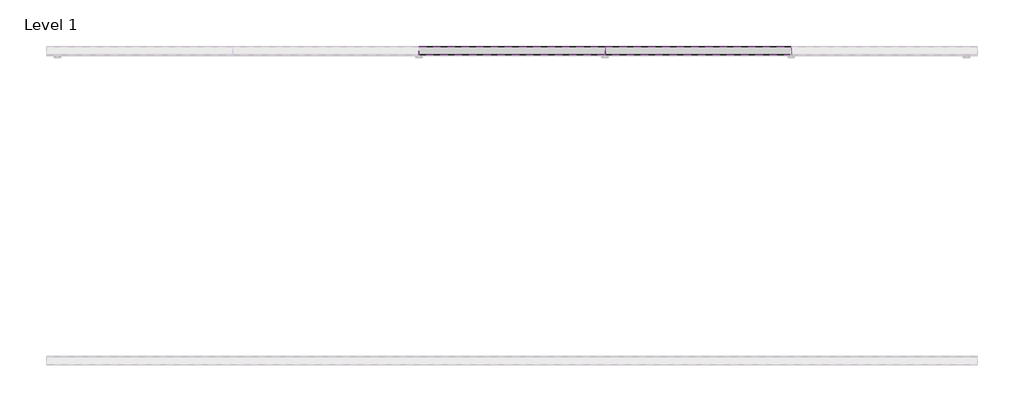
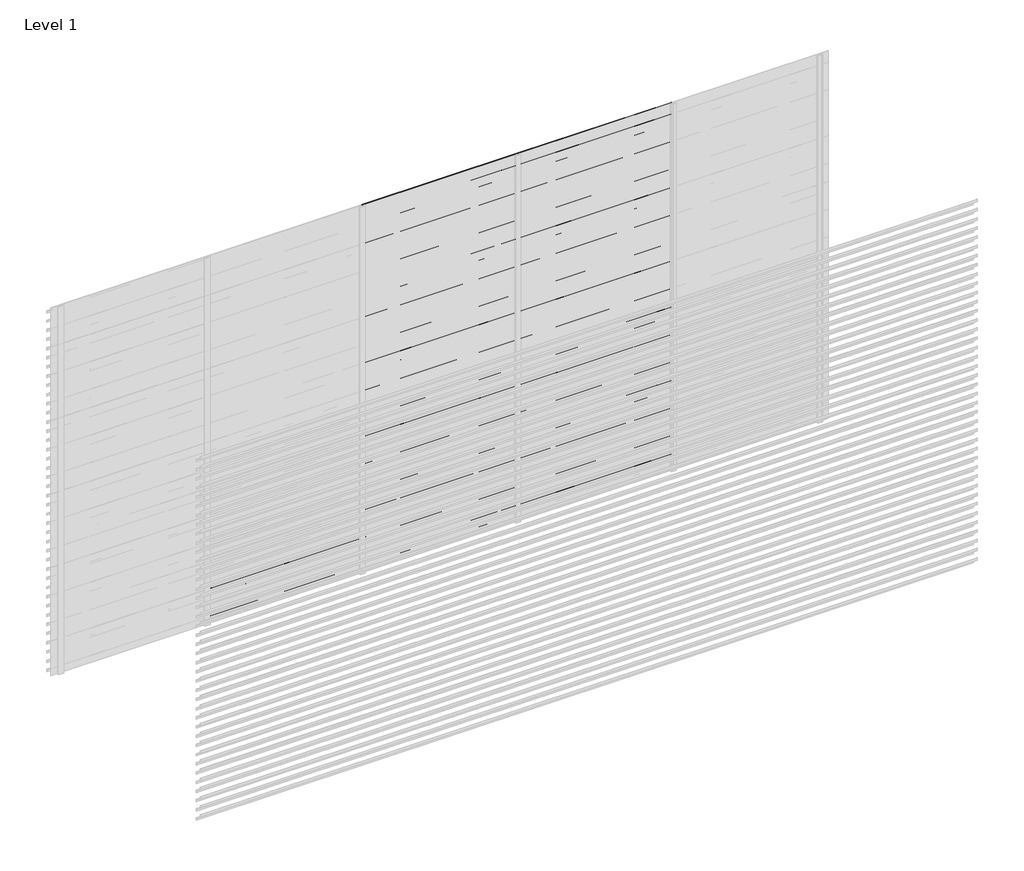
# One storey, part 32 of 55: 84 proxies.
"""IFC4 building model written with IfcOpenShell, lengths in millimetres."""

from ifc_helpers import new_model, si_unit, frame, origin, place, context, project, spatial, polyline, outline, extrude, element, save

model = new_model("IFC4")

# Units and contexts
model_context = context("Model", 3, world=origin())
ifc_project = project(units=[si_unit("LENGTHUNIT", "METRE", prefix="MILLI")], contexts=[model_context])

# Site, building, storey
site = spatial("IfcSite", under=ifc_project)
building = spatial("IfcBuilding", under=site)
storey = spatial("IfcBuildingStorey", under=building, Name="Level 1", Elevation=0.0)

# Proxies
placement = place(None, origin())
element("IfcBuildingElementProxy", 1, Name="Wall Sweeps", at=placement, inside=storey, context=model_context, shape_type="SweptSolid", body=[
    extrude(outline(polyline([(44081.0540136, 318.5), (44081.0540136, 298.5), (44079.8040136, 299.2216933), (44079.8040136, 317.7872415), (44026.0540136, 355.3158044), (44026.0540136, 375.0), (44027.3040136, 375.0), (44027.3040136, 356.0285629), (44081.0540136, 318.5)])), frame((1666.6208099, 0.0, 0.0), z_axis=(1.0, 0.0, 0.0), x_axis=(0.0, 1.0, 0.0)), (0.0, 0.0, 1.0), 1199.9999999),
])
element("IfcBuildingElementProxy", 2, Name="Wall Sweeps", at=placement, inside=storey, context=model_context, shape_type="SweptSolid", body=[
    extrude(outline(polyline([(44081.0540136, 243.5), (44081.0540136, 223.5), (44079.8040136, 224.2216933), (44079.8040136, 242.7872415), (44026.0540136, 280.3158044), (44026.0540136, 300.0), (44027.3040136, 300.0), (44027.3040136, 281.0285629), (44081.0540136, 243.5)])), frame((1666.6208099, 0.0, 0.0), z_axis=(1.0, 0.0, 0.0), x_axis=(0.0, 1.0, 0.0)), (0.0, 0.0, 1.0), 1199.9999999),
])
element("IfcBuildingElementProxy", 3, Name="Wall Sweeps", at=placement, inside=storey, context=model_context, shape_type="SweptSolid", body=[
    extrude(outline(polyline([(44081.0540136, 168.5), (44081.0540136, 148.5), (44079.8040136, 149.2216933), (44079.8040136, 167.7872415), (44026.0540136, 205.3158044), (44026.0540136, 225.0), (44027.3040136, 225.0), (44027.3040136, 206.0285629), (44081.0540136, 168.5)])), frame((1666.6208099, 0.0, 0.0), z_axis=(1.0, 0.0, 0.0), x_axis=(0.0, 1.0, 0.0)), (0.0, 0.0, 1.0), 1199.9999999),
])
element("IfcBuildingElementProxy", 4, Name="Wall Sweeps", at=placement, inside=storey, context=model_context, shape_type="SweptSolid", body=[
    extrude(outline(polyline([(44081.0540136, 93.5), (44081.0540136, 73.5), (44079.8040136, 74.2216933), (44079.8040136, 92.7872415), (44026.0540136, 130.3158044), (44026.0540136, 150.0), (44027.3040136, 150.0), (44027.3040136, 131.0285629), (44081.0540136, 93.5)])), frame((1666.6208099, 0.0, 0.0), z_axis=(1.0, 0.0, 0.0), x_axis=(0.0, 1.0, 0.0)), (0.0, 0.0, 1.0), 1199.9999999),
])
element("IfcBuildingElementProxy", 5, Name="Wall Sweeps", at=placement, inside=storey, context=model_context, shape_type="SweptSolid", body=[
    extrude(outline(polyline([(44081.0540136, 18.5), (44081.0540136, -1.5), (44079.8040136, -0.7783067), (44079.8040136, 17.7872415), (44026.0540136, 55.3158044), (44026.0540136, 75.0), (44027.3040136, 75.0), (44027.3040136, 56.0285629), (44081.0540136, 18.5)])), frame((1666.6208099, 0.0, 0.0), z_axis=(1.0, 0.0, 0.0), x_axis=(0.0, 1.0, 0.0)), (0.0, 0.0, 1.0), 1199.9999999),
])
element("IfcBuildingElementProxy", 6, Name="Wall Sweeps", at=placement, inside=storey, context=model_context, shape_type="SweptSolid", body=[
    extrude(outline(polyline([(44081.0540136, 2943.5), (44081.0540136, 2923.5), (44079.8040136, 2924.2216933), (44079.8040136, 2942.7872415), (44026.0540136, 2980.3158044), (44026.0540136, 3000.0), (44027.3040136, 3000.0), (44027.3040136, 2981.0285629), (44081.0540136, 2943.5)])), frame((2866.6208097, 0.0, 0.0), z_axis=(1.0, 0.0, 0.0), x_axis=(0.0, 1.0, 0.0)), (0.0, 0.0, 1.0), 1199.9999999),
])
element("IfcBuildingElementProxy", 7, Name="Wall Sweeps", at=placement, inside=storey, context=model_context, shape_type="SweptSolid", body=[
    extrude(outline(polyline([(44081.0540136, 2868.5), (44081.0540136, 2848.5), (44079.8040136, 2849.2216933), (44079.8040136, 2867.7872415), (44026.0540136, 2905.3158044), (44026.0540136, 2925.0), (44027.3040136, 2925.0), (44027.3040136, 2906.0285629), (44081.0540136, 2868.5)])), frame((2866.6208097, 0.0, 0.0), z_axis=(1.0, 0.0, 0.0), x_axis=(0.0, 1.0, 0.0)), (0.0, 0.0, 1.0), 1199.9999999),
])
element("IfcBuildingElementProxy", 8, Name="Wall Sweeps", at=placement, inside=storey, context=model_context, shape_type="SweptSolid", body=[
    extrude(outline(polyline([(44081.0540136, 2793.5), (44081.0540136, 2773.5), (44079.8040136, 2774.2216933), (44079.8040136, 2792.7872415), (44026.0540136, 2830.3158044), (44026.0540136, 2850.0), (44027.3040136, 2850.0), (44027.3040136, 2831.0285629), (44081.0540136, 2793.5)])), frame((2866.6208097, 0.0, 0.0), z_axis=(1.0, 0.0, 0.0), x_axis=(0.0, 1.0, 0.0)), (0.0, 0.0, 1.0), 1199.9999999),
])
element("IfcBuildingElementProxy", 9, Name="Wall Sweeps", at=placement, inside=storey, context=model_context, shape_type="SweptSolid", body=[
    extrude(outline(polyline([(44081.0540136, 2718.5), (44081.0540136, 2698.5), (44079.8040136, 2699.2216933), (44079.8040136, 2717.7872415), (44026.0540136, 2755.3158044), (44026.0540136, 2775.0), (44027.3040136, 2775.0), (44027.3040136, 2756.0285629), (44081.0540136, 2718.5)])), frame((2866.6208097, 0.0, 0.0), z_axis=(1.0, 0.0, 0.0), x_axis=(0.0, 1.0, 0.0)), (0.0, 0.0, 1.0), 1199.9999999),
])
element("IfcBuildingElementProxy", 10, Name="Wall Sweeps", at=placement, inside=storey, context=model_context, shape_type="SweptSolid", body=[
    extrude(outline(polyline([(44081.0540136, 2643.5), (44081.0540136, 2623.5), (44079.8040136, 2624.2216933), (44079.8040136, 2642.7872415), (44026.0540136, 2680.3158044), (44026.0540136, 2700.0), (44027.3040136, 2700.0), (44027.3040136, 2681.0285629), (44081.0540136, 2643.5)])), frame((2866.6208097, 0.0, 0.0), z_axis=(1.0, 0.0, 0.0), x_axis=(0.0, 1.0, 0.0)), (0.0, 0.0, 1.0), 1199.9999999),
])
element("IfcBuildingElementProxy", 11, Name="Wall Sweeps", at=placement, inside=storey, context=model_context, shape_type="SweptSolid", body=[
    extrude(outline(polyline([(44081.0540136, 2568.5), (44081.0540136, 2548.5), (44079.8040136, 2549.2216933), (44079.8040136, 2567.7872415), (44026.0540136, 2605.3158044), (44026.0540136, 2625.0), (44027.3040136, 2625.0), (44027.3040136, 2606.0285629), (44081.0540136, 2568.5)])), frame((2866.6208097, 0.0, 0.0), z_axis=(1.0, 0.0, 0.0), x_axis=(0.0, 1.0, 0.0)), (0.0, 0.0, 1.0), 1199.9999999),
])
element("IfcBuildingElementProxy", 12, Name="Wall Sweeps", at=placement, inside=storey, context=model_context, shape_type="SweptSolid", body=[
    extrude(outline(polyline([(44081.0540136, 2493.5), (44081.0540136, 2473.5), (44079.8040136, 2474.2216933), (44079.8040136, 2492.7872415), (44026.0540136, 2530.3158044), (44026.0540136, 2550.0), (44027.3040136, 2550.0), (44027.3040136, 2531.0285629), (44081.0540136, 2493.5)])), frame((2866.6208097, 0.0, 0.0), z_axis=(1.0, 0.0, 0.0), x_axis=(0.0, 1.0, 0.0)), (0.0, 0.0, 1.0), 1199.9999999),
])
element("IfcBuildingElementProxy", 13, Name="Wall Sweeps", at=placement, inside=storey, context=model_context, shape_type="SweptSolid", body=[
    extrude(outline(polyline([(44081.0540136, 2418.5), (44081.0540136, 2398.5), (44079.8040136, 2399.2216933), (44079.8040136, 2417.7872415), (44026.0540136, 2455.3158044), (44026.0540136, 2475.0), (44027.3040136, 2475.0), (44027.3040136, 2456.0285629), (44081.0540136, 2418.5)])), frame((2866.6208097, 0.0, 0.0), z_axis=(1.0, 0.0, 0.0), x_axis=(0.0, 1.0, 0.0)), (0.0, 0.0, 1.0), 1199.9999999),
])
element("IfcBuildingElementProxy", 14, Name="Wall Sweeps", at=placement, inside=storey, context=model_context, shape_type="SweptSolid", body=[
    extrude(outline(polyline([(44081.0540136, 2343.5), (44081.0540136, 2323.5), (44079.8040136, 2324.2216933), (44079.8040136, 2342.7872415), (44026.0540136, 2380.3158044), (44026.0540136, 2400.0), (44027.3040136, 2400.0), (44027.3040136, 2381.0285629), (44081.0540136, 2343.5)])), frame((2866.6208097, 0.0, 0.0), z_axis=(1.0, 0.0, 0.0), x_axis=(0.0, 1.0, 0.0)), (0.0, 0.0, 1.0), 1199.9999999),
])
element("IfcBuildingElementProxy", 15, Name="Wall Sweeps", at=placement, inside=storey, context=model_context, shape_type="SweptSolid", body=[
    extrude(outline(polyline([(44081.0540136, 2268.5), (44081.0540136, 2248.5), (44079.8040136, 2249.2216933), (44079.8040136, 2267.7872415), (44026.0540136, 2305.3158044), (44026.0540136, 2325.0), (44027.3040136, 2325.0), (44027.3040136, 2306.0285629), (44081.0540136, 2268.5)])), frame((2866.6208097, 0.0, 0.0), z_axis=(1.0, 0.0, 0.0), x_axis=(0.0, 1.0, 0.0)), (0.0, 0.0, 1.0), 1199.9999999),
])
element("IfcBuildingElementProxy", 16, Name="Wall Sweeps", at=placement, inside=storey, context=model_context, shape_type="SweptSolid", body=[
    extrude(outline(polyline([(44081.0540136, 2193.5), (44081.0540136, 2173.5), (44079.8040136, 2174.2216933), (44079.8040136, 2192.7872415), (44026.0540136, 2230.3158044), (44026.0540136, 2250.0), (44027.3040136, 2250.0), (44027.3040136, 2231.0285629), (44081.0540136, 2193.5)])), frame((2866.6208097, 0.0, 0.0), z_axis=(1.0, 0.0, 0.0), x_axis=(0.0, 1.0, 0.0)), (0.0, 0.0, 1.0), 1199.9999999),
])
element("IfcBuildingElementProxy", 17, Name="Wall Sweeps", at=placement, inside=storey, context=model_context, shape_type="SweptSolid", body=[
    extrude(outline(polyline([(44081.0540136, 2118.5), (44081.0540136, 2098.5), (44079.8040136, 2099.2216933), (44079.8040136, 2117.7872415), (44026.0540136, 2155.3158044), (44026.0540136, 2175.0), (44027.3040136, 2175.0), (44027.3040136, 2156.0285629), (44081.0540136, 2118.5)])), frame((2866.6208097, 0.0, 0.0), z_axis=(1.0, 0.0, 0.0), x_axis=(0.0, 1.0, 0.0)), (0.0, 0.0, 1.0), 1199.9999999),
])
element("IfcBuildingElementProxy", 18, Name="Wall Sweeps", at=placement, inside=storey, context=model_context, shape_type="SweptSolid", body=[
    extrude(outline(polyline([(44081.0540136, 2043.5), (44081.0540136, 2023.5), (44079.8040136, 2024.2216933), (44079.8040136, 2042.7872415), (44026.0540136, 2080.3158044), (44026.0540136, 2100.0), (44027.3040136, 2100.0), (44027.3040136, 2081.0285629), (44081.0540136, 2043.5)])), frame((2866.6208097, 0.0, 0.0), z_axis=(1.0, 0.0, 0.0), x_axis=(0.0, 1.0, 0.0)), (0.0, 0.0, 1.0), 1199.9999999),
])
element("IfcBuildingElementProxy", 19, Name="Wall Sweeps", at=placement, inside=storey, context=model_context, shape_type="SweptSolid", body=[
    extrude(outline(polyline([(44081.0540136, 1968.5), (44081.0540136, 1948.5), (44079.8040136, 1949.2216933), (44079.8040136, 1967.7872415), (44026.0540136, 2005.3158044), (44026.0540136, 2025.0), (44027.3040136, 2025.0), (44027.3040136, 2006.0285629), (44081.0540136, 1968.5)])), frame((2866.6208097, 0.0, 0.0), z_axis=(1.0, 0.0, 0.0), x_axis=(0.0, 1.0, 0.0)), (0.0, 0.0, 1.0), 1199.9999999),
])
element("IfcBuildingElementProxy", 20, Name="Wall Sweeps", at=placement, inside=storey, context=model_context, shape_type="SweptSolid", body=[
    extrude(outline(polyline([(44081.0540136, 1893.5), (44081.0540136, 1873.5), (44079.8040136, 1874.2216933), (44079.8040136, 1892.7872415), (44026.0540136, 1930.3158044), (44026.0540136, 1950.0), (44027.3040136, 1950.0), (44027.3040136, 1931.0285629), (44081.0540136, 1893.5)])), frame((2866.6208097, 0.0, 0.0), z_axis=(1.0, 0.0, 0.0), x_axis=(0.0, 1.0, 0.0)), (0.0, 0.0, 1.0), 1199.9999999),
])
element("IfcBuildingElementProxy", 21, Name="Wall Sweeps", at=placement, inside=storey, context=model_context, shape_type="SweptSolid", body=[
    extrude(outline(polyline([(44081.0540136, 1818.5), (44081.0540136, 1798.5), (44079.8040136, 1799.2216933), (44079.8040136, 1817.7872415), (44026.0540136, 1855.3158044), (44026.0540136, 1875.0), (44027.3040136, 1875.0), (44027.3040136, 1856.0285629), (44081.0540136, 1818.5)])), frame((2866.6208097, 0.0, 0.0), z_axis=(1.0, 0.0, 0.0), x_axis=(0.0, 1.0, 0.0)), (0.0, 0.0, 1.0), 1199.9999999),
])
element("IfcBuildingElementProxy", 22, Name="Wall Sweeps", at=placement, inside=storey, context=model_context, shape_type="SweptSolid", body=[
    extrude(outline(polyline([(44081.0540136, 1743.5), (44081.0540136, 1723.5), (44079.8040136, 1724.2216933), (44079.8040136, 1742.7872415), (44026.0540136, 1780.3158044), (44026.0540136, 1800.0), (44027.3040136, 1800.0), (44027.3040136, 1781.0285629), (44081.0540136, 1743.5)])), frame((2866.6208097, 0.0, 0.0), z_axis=(1.0, 0.0, 0.0), x_axis=(0.0, 1.0, 0.0)), (0.0, 0.0, 1.0), 1199.9999999),
])
element("IfcBuildingElementProxy", 23, Name="Wall Sweeps", at=placement, inside=storey, context=model_context, shape_type="SweptSolid", body=[
    extrude(outline(polyline([(44081.0540136, 1668.5), (44081.0540136, 1648.5), (44079.8040136, 1649.2216933), (44079.8040136, 1667.7872415), (44026.0540136, 1705.3158044), (44026.0540136, 1725.0), (44027.3040136, 1725.0), (44027.3040136, 1706.0285629), (44081.0540136, 1668.5)])), frame((2866.6208097, 0.0, 0.0), z_axis=(1.0, 0.0, 0.0), x_axis=(0.0, 1.0, 0.0)), (0.0, 0.0, 1.0), 1199.9999999),
])
element("IfcBuildingElementProxy", 24, Name="Wall Sweeps", at=placement, inside=storey, context=model_context, shape_type="SweptSolid", body=[
    extrude(outline(polyline([(44081.0540136, 1593.5), (44081.0540136, 1573.5), (44079.8040136, 1574.2216933), (44079.8040136, 1592.7872415), (44026.0540136, 1630.3158044), (44026.0540136, 1650.0), (44027.3040136, 1650.0), (44027.3040136, 1631.0285629), (44081.0540136, 1593.5)])), frame((2866.6208097, 0.0, 0.0), z_axis=(1.0, 0.0, 0.0), x_axis=(0.0, 1.0, 0.0)), (0.0, 0.0, 1.0), 1199.9999999),
])
element("IfcBuildingElementProxy", 25, Name="Wall Sweeps", at=placement, inside=storey, context=model_context, shape_type="SweptSolid", body=[
    extrude(outline(polyline([(44081.0540136, 1518.5), (44081.0540136, 1498.5), (44079.8040136, 1499.2216933), (44079.8040136, 1517.7872415), (44026.0540136, 1555.3158044), (44026.0540136, 1575.0), (44027.3040136, 1575.0), (44027.3040136, 1556.0285629), (44081.0540136, 1518.5)])), frame((2866.6208097, 0.0, 0.0), z_axis=(1.0, 0.0, 0.0), x_axis=(0.0, 1.0, 0.0)), (0.0, 0.0, 1.0), 1199.9999999),
])
element("IfcBuildingElementProxy", 26, Name="Wall Sweeps", at=placement, inside=storey, context=model_context, shape_type="SweptSolid", body=[
    extrude(outline(polyline([(44081.0540136, 1443.5), (44081.0540136, 1423.5), (44079.8040136, 1424.2216933), (44079.8040136, 1442.7872415), (44026.0540136, 1480.3158044), (44026.0540136, 1500.0), (44027.3040136, 1500.0), (44027.3040136, 1481.0285629), (44081.0540136, 1443.5)])), frame((2866.6208097, 0.0, 0.0), z_axis=(1.0, 0.0, 0.0), x_axis=(0.0, 1.0, 0.0)), (0.0, 0.0, 1.0), 1199.9999999),
])
element("IfcBuildingElementProxy", 27, Name="Wall Sweeps", at=placement, inside=storey, context=model_context, shape_type="SweptSolid", body=[
    extrude(outline(polyline([(44081.0540136, 1368.5), (44081.0540136, 1348.5), (44079.8040136, 1349.2216933), (44079.8040136, 1367.7872415), (44026.0540136, 1405.3158044), (44026.0540136, 1425.0), (44027.3040136, 1425.0), (44027.3040136, 1406.0285629), (44081.0540136, 1368.5)])), frame((2866.6208097, 0.0, 0.0), z_axis=(1.0, 0.0, 0.0), x_axis=(0.0, 1.0, 0.0)), (0.0, 0.0, 1.0), 1199.9999999),
])
element("IfcBuildingElementProxy", 28, Name="Wall Sweeps", at=placement, inside=storey, context=model_context, shape_type="SweptSolid", body=[
    extrude(outline(polyline([(44081.0540136, 1293.5), (44081.0540136, 1273.5), (44079.8040136, 1274.2216933), (44079.8040136, 1292.7872415), (44026.0540136, 1330.3158044), (44026.0540136, 1350.0), (44027.3040136, 1350.0), (44027.3040136, 1331.0285629), (44081.0540136, 1293.5)])), frame((2866.6208097, 0.0, 0.0), z_axis=(1.0, 0.0, 0.0), x_axis=(0.0, 1.0, 0.0)), (0.0, 0.0, 1.0), 1199.9999999),
])
element("IfcBuildingElementProxy", 29, Name="Wall Sweeps", at=placement, inside=storey, context=model_context, shape_type="SweptSolid", body=[
    extrude(outline(polyline([(44081.0540136, 1218.5), (44081.0540136, 1198.5), (44079.8040136, 1199.2216933), (44079.8040136, 1217.7872415), (44026.0540136, 1255.3158044), (44026.0540136, 1275.0), (44027.3040136, 1275.0), (44027.3040136, 1256.0285629), (44081.0540136, 1218.5)])), frame((2866.6208097, 0.0, 0.0), z_axis=(1.0, 0.0, 0.0), x_axis=(0.0, 1.0, 0.0)), (0.0, 0.0, 1.0), 1199.9999999),
])
element("IfcBuildingElementProxy", 30, Name="Wall Sweeps", at=placement, inside=storey, context=model_context, shape_type="SweptSolid", body=[
    extrude(outline(polyline([(44081.0540136, 1143.5), (44081.0540136, 1123.5), (44079.8040136, 1124.2216933), (44079.8040136, 1142.7872415), (44026.0540136, 1180.3158044), (44026.0540136, 1200.0), (44027.3040136, 1200.0), (44027.3040136, 1181.0285629), (44081.0540136, 1143.5)])), frame((2866.6208097, 0.0, 0.0), z_axis=(1.0, 0.0, 0.0), x_axis=(0.0, 1.0, 0.0)), (0.0, 0.0, 1.0), 1199.9999999),
])
element("IfcBuildingElementProxy", 31, Name="Wall Sweeps", at=placement, inside=storey, context=model_context, shape_type="SweptSolid", body=[
    extrude(outline(polyline([(44081.0540136, 1068.5), (44081.0540136, 1048.5), (44079.8040136, 1049.2216933), (44079.8040136, 1067.7872415), (44026.0540136, 1105.3158044), (44026.0540136, 1125.0), (44027.3040136, 1125.0), (44027.3040136, 1106.0285629), (44081.0540136, 1068.5)])), frame((2866.6208097, 0.0, 0.0), z_axis=(1.0, 0.0, 0.0), x_axis=(0.0, 1.0, 0.0)), (0.0, 0.0, 1.0), 1199.9999999),
])
element("IfcBuildingElementProxy", 32, Name="Wall Sweeps", at=placement, inside=storey, context=model_context, shape_type="SweptSolid", body=[
    extrude(outline(polyline([(44081.0540136, 993.5), (44081.0540136, 973.5), (44079.8040136, 974.2216933), (44079.8040136, 992.7872415), (44026.0540136, 1030.3158044), (44026.0540136, 1050.0), (44027.3040136, 1050.0), (44027.3040136, 1031.0285629), (44081.0540136, 993.5)])), frame((2866.6208097, 0.0, 0.0), z_axis=(1.0, 0.0, 0.0), x_axis=(0.0, 1.0, 0.0)), (0.0, 0.0, 1.0), 1199.9999999),
])
element("IfcBuildingElementProxy", 33, Name="Wall Sweeps", at=placement, inside=storey, context=model_context, shape_type="SweptSolid", body=[
    extrude(outline(polyline([(44081.0540136, 918.5), (44081.0540136, 898.5), (44079.8040136, 899.2216933), (44079.8040136, 917.7872415), (44026.0540136, 955.3158044), (44026.0540136, 975.0), (44027.3040136, 975.0), (44027.3040136, 956.0285629), (44081.0540136, 918.5)])), frame((2866.6208097, 0.0, 0.0), z_axis=(1.0, 0.0, 0.0), x_axis=(0.0, 1.0, 0.0)), (0.0, 0.0, 1.0), 1199.9999999),
])
element("IfcBuildingElementProxy", 34, Name="Wall Sweeps", at=placement, inside=storey, context=model_context, shape_type="SweptSolid", body=[
    extrude(outline(polyline([(44081.0540136, 843.5), (44081.0540136, 823.5), (44079.8040136, 824.2216933), (44079.8040136, 842.7872415), (44026.0540136, 880.3158044), (44026.0540136, 900.0), (44027.3040136, 900.0), (44027.3040136, 881.0285629), (44081.0540136, 843.5)])), frame((2866.6208097, 0.0, 0.0), z_axis=(1.0, 0.0, 0.0), x_axis=(0.0, 1.0, 0.0)), (0.0, 0.0, 1.0), 1199.9999999),
])
element("IfcBuildingElementProxy", 35, Name="Wall Sweeps", at=placement, inside=storey, context=model_context, shape_type="SweptSolid", body=[
    extrude(outline(polyline([(44081.0540136, 768.5), (44081.0540136, 748.5), (44079.8040136, 749.2216933), (44079.8040136, 767.7872415), (44026.0540136, 805.3158044), (44026.0540136, 825.0), (44027.3040136, 825.0), (44027.3040136, 806.0285629), (44081.0540136, 768.5)])), frame((2866.6208097, 0.0, 0.0), z_axis=(1.0, 0.0, 0.0), x_axis=(0.0, 1.0, 0.0)), (0.0, 0.0, 1.0), 1199.9999999),
])
element("IfcBuildingElementProxy", 36, Name="Wall Sweeps", at=placement, inside=storey, context=model_context, shape_type="SweptSolid", body=[
    extrude(outline(polyline([(44081.0540136, 693.5), (44081.0540136, 673.5), (44079.8040136, 674.2216933), (44079.8040136, 692.7872415), (44026.0540136, 730.3158044), (44026.0540136, 750.0), (44027.3040136, 750.0), (44027.3040136, 731.0285629), (44081.0540136, 693.5)])), frame((2866.6208097, 0.0, 0.0), z_axis=(1.0, 0.0, 0.0), x_axis=(0.0, 1.0, 0.0)), (0.0, 0.0, 1.0), 1199.9999999),
])
element("IfcBuildingElementProxy", 37, Name="Wall Sweeps", at=placement, inside=storey, context=model_context, shape_type="SweptSolid", body=[
    extrude(outline(polyline([(44081.0540136, 618.5), (44081.0540136, 598.5), (44079.8040136, 599.2216933), (44079.8040136, 617.7872415), (44026.0540136, 655.3158044), (44026.0540136, 675.0), (44027.3040136, 675.0), (44027.3040136, 656.0285629), (44081.0540136, 618.5)])), frame((2866.6208097, 0.0, 0.0), z_axis=(1.0, 0.0, 0.0), x_axis=(0.0, 1.0, 0.0)), (0.0, 0.0, 1.0), 1199.9999999),
])
element("IfcBuildingElementProxy", 38, Name="Wall Sweeps", at=placement, inside=storey, context=model_context, shape_type="SweptSolid", body=[
    extrude(outline(polyline([(44081.0540136, 543.5), (44081.0540136, 523.5), (44079.8040136, 524.2216933), (44079.8040136, 542.7872415), (44026.0540136, 580.3158044), (44026.0540136, 600.0), (44027.3040136, 600.0), (44027.3040136, 581.0285629), (44081.0540136, 543.5)])), frame((2866.6208097, 0.0, 0.0), z_axis=(1.0, 0.0, 0.0), x_axis=(0.0, 1.0, 0.0)), (0.0, 0.0, 1.0), 1199.9999999),
])
element("IfcBuildingElementProxy", 39, Name="Wall Sweeps", at=placement, inside=storey, context=model_context, shape_type="SweptSolid", body=[
    extrude(outline(polyline([(44081.0540136, 468.5), (44081.0540136, 448.5), (44079.8040136, 449.2216933), (44079.8040136, 467.7872415), (44026.0540136, 505.3158044), (44026.0540136, 525.0), (44027.3040136, 525.0), (44027.3040136, 506.0285629), (44081.0540136, 468.5)])), frame((2866.6208097, 0.0, 0.0), z_axis=(1.0, 0.0, 0.0), x_axis=(0.0, 1.0, 0.0)), (0.0, 0.0, 1.0), 1199.9999999),
])
element("IfcBuildingElementProxy", 40, Name="Wall Sweeps", at=placement, inside=storey, context=model_context, shape_type="SweptSolid", body=[
    extrude(outline(polyline([(44081.0540136, 393.5), (44081.0540136, 373.5), (44079.8040136, 374.2216933), (44079.8040136, 392.7872415), (44026.0540136, 430.3158044), (44026.0540136, 450.0), (44027.3040136, 450.0), (44027.3040136, 431.0285629), (44081.0540136, 393.5)])), frame((2866.6208097, 0.0, 0.0), z_axis=(1.0, 0.0, 0.0), x_axis=(0.0, 1.0, 0.0)), (0.0, 0.0, 1.0), 1199.9999999),
])
element("IfcBuildingElementProxy", 41, Name="Wall Sweeps", at=placement, inside=storey, context=model_context, shape_type="SweptSolid", body=[
    extrude(outline(polyline([(44081.0540136, 318.5), (44081.0540136, 298.5), (44079.8040136, 299.2216933), (44079.8040136, 317.7872415), (44026.0540136, 355.3158044), (44026.0540136, 375.0), (44027.3040136, 375.0), (44027.3040136, 356.0285629), (44081.0540136, 318.5)])), frame((2866.6208097, 0.0, 0.0), z_axis=(1.0, 0.0, 0.0), x_axis=(0.0, 1.0, 0.0)), (0.0, 0.0, 1.0), 1199.9999999),
])
element("IfcBuildingElementProxy", 42, Name="Wall Sweeps", at=placement, inside=storey, context=model_context, shape_type="SweptSolid", body=[
    extrude(outline(polyline([(44081.0540136, 243.5), (44081.0540136, 223.5), (44079.8040136, 224.2216933), (44079.8040136, 242.7872415), (44026.0540136, 280.3158044), (44026.0540136, 300.0), (44027.3040136, 300.0), (44027.3040136, 281.0285629), (44081.0540136, 243.5)])), frame((2866.6208097, 0.0, 0.0), z_axis=(1.0, 0.0, 0.0), x_axis=(0.0, 1.0, 0.0)), (0.0, 0.0, 1.0), 1199.9999999),
])
element("IfcBuildingElementProxy", 43, Name="Wall Sweeps", at=placement, inside=storey, context=model_context, shape_type="SweptSolid", body=[
    extrude(outline(polyline([(44081.0540136, 168.5), (44081.0540136, 148.5), (44079.8040136, 149.2216933), (44079.8040136, 167.7872415), (44026.0540136, 205.3158044), (44026.0540136, 225.0), (44027.3040136, 225.0), (44027.3040136, 206.0285629), (44081.0540136, 168.5)])), frame((2866.6208097, 0.0, 0.0), z_axis=(1.0, 0.0, 0.0), x_axis=(0.0, 1.0, 0.0)), (0.0, 0.0, 1.0), 1199.9999999),
])
element("IfcBuildingElementProxy", 44, Name="Wall Sweeps", at=placement, inside=storey, context=model_context, shape_type="SweptSolid", body=[
    extrude(outline(polyline([(44081.0540136, 93.5), (44081.0540136, 73.5), (44079.8040136, 74.2216933), (44079.8040136, 92.7872415), (44026.0540136, 130.3158044), (44026.0540136, 150.0), (44027.3040136, 150.0), (44027.3040136, 131.0285629), (44081.0540136, 93.5)])), frame((2866.6208097, 0.0, 0.0), z_axis=(1.0, 0.0, 0.0), x_axis=(0.0, 1.0, 0.0)), (0.0, 0.0, 1.0), 1199.9999999),
])
element("IfcBuildingElementProxy", 45, Name="Wall Sweeps", at=placement, inside=storey, context=model_context, shape_type="SweptSolid", body=[
    extrude(outline(polyline([(44081.0540136, 18.5), (44081.0540136, -1.5), (44079.8040136, -0.7783067), (44079.8040136, 17.7872415), (44026.0540136, 55.3158044), (44026.0540136, 75.0), (44027.3040136, 75.0), (44027.3040136, 56.0285629), (44081.0540136, 18.5)])), frame((2866.6208097, 0.0, 0.0), z_axis=(1.0, 0.0, 0.0), x_axis=(0.0, 1.0, 0.0)), (0.0, 0.0, 1.0), 1199.9999999),
])
element("IfcBuildingElementProxy", 46, Name="Wall Sweeps", at=placement, inside=storey, context=model_context, shape_type="SweptSolid", body=[
    extrude(outline(polyline([(44081.0540136, 2943.5), (44081.0540136, 2923.5), (44079.8040136, 2924.2216933), (44079.8040136, 2942.7872415), (44026.0540136, 2980.3158044), (44026.0540136, 3000.0), (44027.3040136, 3000.0), (44027.3040136, 2981.0285629), (44081.0540136, 2943.5)])), frame((4066.6208096, 0.0, 0.0), z_axis=(1.0, 0.0, 0.0), x_axis=(0.0, 1.0, 0.0)), (0.0, 0.0, 1.0), 1199.9999999),
])
element("IfcBuildingElementProxy", 47, Name="Wall Sweeps", at=placement, inside=storey, context=model_context, shape_type="SweptSolid", body=[
    extrude(outline(polyline([(44081.0540136, 2868.5), (44081.0540136, 2848.5), (44079.8040136, 2849.2216933), (44079.8040136, 2867.7872415), (44026.0540136, 2905.3158044), (44026.0540136, 2925.0), (44027.3040136, 2925.0), (44027.3040136, 2906.0285629), (44081.0540136, 2868.5)])), frame((4066.6208096, 0.0, 0.0), z_axis=(1.0, 0.0, 0.0), x_axis=(0.0, 1.0, 0.0)), (0.0, 0.0, 1.0), 1199.9999999),
])
element("IfcBuildingElementProxy", 48, Name="Wall Sweeps", at=placement, inside=storey, context=model_context, shape_type="SweptSolid", body=[
    extrude(outline(polyline([(44081.0540136, 2793.5), (44081.0540136, 2773.5), (44079.8040136, 2774.2216933), (44079.8040136, 2792.7872415), (44026.0540136, 2830.3158044), (44026.0540136, 2850.0), (44027.3040136, 2850.0), (44027.3040136, 2831.0285629), (44081.0540136, 2793.5)])), frame((4066.6208096, 0.0, 0.0), z_axis=(1.0, 0.0, 0.0), x_axis=(0.0, 1.0, 0.0)), (0.0, 0.0, 1.0), 1199.9999999),
])
element("IfcBuildingElementProxy", 49, Name="Wall Sweeps", at=placement, inside=storey, context=model_context, shape_type="SweptSolid", body=[
    extrude(outline(polyline([(44081.0540136, 2718.5), (44081.0540136, 2698.5), (44079.8040136, 2699.2216933), (44079.8040136, 2717.7872415), (44026.0540136, 2755.3158044), (44026.0540136, 2775.0), (44027.3040136, 2775.0), (44027.3040136, 2756.0285629), (44081.0540136, 2718.5)])), frame((4066.6208096, 0.0, 0.0), z_axis=(1.0, 0.0, 0.0), x_axis=(0.0, 1.0, 0.0)), (0.0, 0.0, 1.0), 1199.9999999),
])
element("IfcBuildingElementProxy", 50, Name="Wall Sweeps", at=placement, inside=storey, context=model_context, shape_type="SweptSolid", body=[
    extrude(outline(polyline([(44081.0540136, 2643.5), (44081.0540136, 2623.5), (44079.8040136, 2624.2216933), (44079.8040136, 2642.7872415), (44026.0540136, 2680.3158044), (44026.0540136, 2700.0), (44027.3040136, 2700.0), (44027.3040136, 2681.0285629), (44081.0540136, 2643.5)])), frame((4066.6208096, 0.0, 0.0), z_axis=(1.0, 0.0, 0.0), x_axis=(0.0, 1.0, 0.0)), (0.0, 0.0, 1.0), 1199.9999999),
])
element("IfcBuildingElementProxy", 51, Name="Wall Sweeps", at=placement, inside=storey, context=model_context, shape_type="SweptSolid", body=[
    extrude(outline(polyline([(44081.0540136, 2568.5), (44081.0540136, 2548.5), (44079.8040136, 2549.2216933), (44079.8040136, 2567.7872415), (44026.0540136, 2605.3158044), (44026.0540136, 2625.0), (44027.3040136, 2625.0), (44027.3040136, 2606.0285629), (44081.0540136, 2568.5)])), frame((4066.6208096, 0.0, 0.0), z_axis=(1.0, 0.0, 0.0), x_axis=(0.0, 1.0, 0.0)), (0.0, 0.0, 1.0), 1199.9999999),
])
element("IfcBuildingElementProxy", 52, Name="Wall Sweeps", at=placement, inside=storey, context=model_context, shape_type="SweptSolid", body=[
    extrude(outline(polyline([(44081.0540136, 2493.5), (44081.0540136, 2473.5), (44079.8040136, 2474.2216933), (44079.8040136, 2492.7872415), (44026.0540136, 2530.3158044), (44026.0540136, 2550.0), (44027.3040136, 2550.0), (44027.3040136, 2531.0285629), (44081.0540136, 2493.5)])), frame((4066.6208096, 0.0, 0.0), z_axis=(1.0, 0.0, 0.0), x_axis=(0.0, 1.0, 0.0)), (0.0, 0.0, 1.0), 1199.9999999),
])
element("IfcBuildingElementProxy", 53, Name="Wall Sweeps", at=placement, inside=storey, context=model_context, shape_type="SweptSolid", body=[
    extrude(outline(polyline([(44081.0540136, 2418.5), (44081.0540136, 2398.5), (44079.8040136, 2399.2216933), (44079.8040136, 2417.7872415), (44026.0540136, 2455.3158044), (44026.0540136, 2475.0), (44027.3040136, 2475.0), (44027.3040136, 2456.0285629), (44081.0540136, 2418.5)])), frame((4066.6208096, 0.0, 0.0), z_axis=(1.0, 0.0, 0.0), x_axis=(0.0, 1.0, 0.0)), (0.0, 0.0, 1.0), 1199.9999999),
])
element("IfcBuildingElementProxy", 54, Name="Wall Sweeps", at=placement, inside=storey, context=model_context, shape_type="SweptSolid", body=[
    extrude(outline(polyline([(44081.0540136, 2343.5), (44081.0540136, 2323.5), (44079.8040136, 2324.2216933), (44079.8040136, 2342.7872415), (44026.0540136, 2380.3158044), (44026.0540136, 2400.0), (44027.3040136, 2400.0), (44027.3040136, 2381.0285629), (44081.0540136, 2343.5)])), frame((4066.6208096, 0.0, 0.0), z_axis=(1.0, 0.0, 0.0), x_axis=(0.0, 1.0, 0.0)), (0.0, 0.0, 1.0), 1199.9999999),
])
element("IfcBuildingElementProxy", 55, Name="Wall Sweeps", at=placement, inside=storey, context=model_context, shape_type="SweptSolid", body=[
    extrude(outline(polyline([(44081.0540136, 2268.5), (44081.0540136, 2248.5), (44079.8040136, 2249.2216933), (44079.8040136, 2267.7872415), (44026.0540136, 2305.3158044), (44026.0540136, 2325.0), (44027.3040136, 2325.0), (44027.3040136, 2306.0285629), (44081.0540136, 2268.5)])), frame((4066.6208096, 0.0, 0.0), z_axis=(1.0, 0.0, 0.0), x_axis=(0.0, 1.0, 0.0)), (0.0, 0.0, 1.0), 1199.9999999),
])
element("IfcBuildingElementProxy", 56, Name="Wall Sweeps", at=placement, inside=storey, context=model_context, shape_type="SweptSolid", body=[
    extrude(outline(polyline([(44081.0540136, 2193.5), (44081.0540136, 2173.5), (44079.8040136, 2174.2216933), (44079.8040136, 2192.7872415), (44026.0540136, 2230.3158044), (44026.0540136, 2250.0), (44027.3040136, 2250.0), (44027.3040136, 2231.0285629), (44081.0540136, 2193.5)])), frame((4066.6208096, 0.0, 0.0), z_axis=(1.0, 0.0, 0.0), x_axis=(0.0, 1.0, 0.0)), (0.0, 0.0, 1.0), 1199.9999999),
])
element("IfcBuildingElementProxy", 57, Name="Wall Sweeps", at=placement, inside=storey, context=model_context, shape_type="SweptSolid", body=[
    extrude(outline(polyline([(44081.0540136, 2118.5), (44081.0540136, 2098.5), (44079.8040136, 2099.2216933), (44079.8040136, 2117.7872415), (44026.0540136, 2155.3158044), (44026.0540136, 2175.0), (44027.3040136, 2175.0), (44027.3040136, 2156.0285629), (44081.0540136, 2118.5)])), frame((4066.6208096, 0.0, 0.0), z_axis=(1.0, 0.0, 0.0), x_axis=(0.0, 1.0, 0.0)), (0.0, 0.0, 1.0), 1199.9999999),
])
element("IfcBuildingElementProxy", 58, Name="Wall Sweeps", at=placement, inside=storey, context=model_context, shape_type="SweptSolid", body=[
    extrude(outline(polyline([(44081.0540136, 2043.5), (44081.0540136, 2023.5), (44079.8040136, 2024.2216933), (44079.8040136, 2042.7872415), (44026.0540136, 2080.3158044), (44026.0540136, 2100.0), (44027.3040136, 2100.0), (44027.3040136, 2081.0285629), (44081.0540136, 2043.5)])), frame((4066.6208096, 0.0, 0.0), z_axis=(1.0, 0.0, 0.0), x_axis=(0.0, 1.0, 0.0)), (0.0, 0.0, 1.0), 1199.9999999),
])
element("IfcBuildingElementProxy", 59, Name="Wall Sweeps", at=placement, inside=storey, context=model_context, shape_type="SweptSolid", body=[
    extrude(outline(polyline([(44081.0540136, 1968.5), (44081.0540136, 1948.5), (44079.8040136, 1949.2216933), (44079.8040136, 1967.7872415), (44026.0540136, 2005.3158044), (44026.0540136, 2025.0), (44027.3040136, 2025.0), (44027.3040136, 2006.0285629), (44081.0540136, 1968.5)])), frame((4066.6208096, 0.0, 0.0), z_axis=(1.0, 0.0, 0.0), x_axis=(0.0, 1.0, 0.0)), (0.0, 0.0, 1.0), 1199.9999999),
])
element("IfcBuildingElementProxy", 60, Name="Wall Sweeps", at=placement, inside=storey, context=model_context, shape_type="SweptSolid", body=[
    extrude(outline(polyline([(44081.0540136, 1893.5), (44081.0540136, 1873.5), (44079.8040136, 1874.2216933), (44079.8040136, 1892.7872415), (44026.0540136, 1930.3158044), (44026.0540136, 1950.0), (44027.3040136, 1950.0), (44027.3040136, 1931.0285629), (44081.0540136, 1893.5)])), frame((4066.6208096, 0.0, 0.0), z_axis=(1.0, 0.0, 0.0), x_axis=(0.0, 1.0, 0.0)), (0.0, 0.0, 1.0), 1199.9999999),
])
element("IfcBuildingElementProxy", 61, Name="Wall Sweeps", at=placement, inside=storey, context=model_context, shape_type="SweptSolid", body=[
    extrude(outline(polyline([(44081.0540136, 1818.5), (44081.0540136, 1798.5), (44079.8040136, 1799.2216933), (44079.8040136, 1817.7872415), (44026.0540136, 1855.3158044), (44026.0540136, 1875.0), (44027.3040136, 1875.0), (44027.3040136, 1856.0285629), (44081.0540136, 1818.5)])), frame((4066.6208096, 0.0, 0.0), z_axis=(1.0, 0.0, 0.0), x_axis=(0.0, 1.0, 0.0)), (0.0, 0.0, 1.0), 1199.9999999),
])
element("IfcBuildingElementProxy", 62, Name="Wall Sweeps", at=placement, inside=storey, context=model_context, shape_type="SweptSolid", body=[
    extrude(outline(polyline([(44081.0540136, 1743.5), (44081.0540136, 1723.5), (44079.8040136, 1724.2216933), (44079.8040136, 1742.7872415), (44026.0540136, 1780.3158044), (44026.0540136, 1800.0), (44027.3040136, 1800.0), (44027.3040136, 1781.0285629), (44081.0540136, 1743.5)])), frame((4066.6208096, 0.0, 0.0), z_axis=(1.0, 0.0, 0.0), x_axis=(0.0, 1.0, 0.0)), (0.0, 0.0, 1.0), 1199.9999999),
])
element("IfcBuildingElementProxy", 63, Name="Wall Sweeps", at=placement, inside=storey, context=model_context, shape_type="SweptSolid", body=[
    extrude(outline(polyline([(44081.0540136, 1668.5), (44081.0540136, 1648.5), (44079.8040136, 1649.2216933), (44079.8040136, 1667.7872415), (44026.0540136, 1705.3158044), (44026.0540136, 1725.0), (44027.3040136, 1725.0), (44027.3040136, 1706.0285629), (44081.0540136, 1668.5)])), frame((4066.6208096, 0.0, 0.0), z_axis=(1.0, 0.0, 0.0), x_axis=(0.0, 1.0, 0.0)), (0.0, 0.0, 1.0), 1199.9999999),
])
element("IfcBuildingElementProxy", 64, Name="Wall Sweeps", at=placement, inside=storey, context=model_context, shape_type="SweptSolid", body=[
    extrude(outline(polyline([(44081.0540136, 1593.5), (44081.0540136, 1573.5), (44079.8040136, 1574.2216933), (44079.8040136, 1592.7872415), (44026.0540136, 1630.3158044), (44026.0540136, 1650.0), (44027.3040136, 1650.0), (44027.3040136, 1631.0285629), (44081.0540136, 1593.5)])), frame((4066.6208096, 0.0, 0.0), z_axis=(1.0, 0.0, 0.0), x_axis=(0.0, 1.0, 0.0)), (0.0, 0.0, 1.0), 1199.9999999),
])
element("IfcBuildingElementProxy", 65, Name="Wall Sweeps", at=placement, inside=storey, context=model_context, shape_type="SweptSolid", body=[
    extrude(outline(polyline([(44081.0540136, 1518.5), (44081.0540136, 1498.5), (44079.8040136, 1499.2216933), (44079.8040136, 1517.7872415), (44026.0540136, 1555.3158044), (44026.0540136, 1575.0), (44027.3040136, 1575.0), (44027.3040136, 1556.0285629), (44081.0540136, 1518.5)])), frame((4066.6208096, 0.0, 0.0), z_axis=(1.0, 0.0, 0.0), x_axis=(0.0, 1.0, 0.0)), (0.0, 0.0, 1.0), 1199.9999999),
])
element("IfcBuildingElementProxy", 66, Name="Wall Sweeps", at=placement, inside=storey, context=model_context, shape_type="SweptSolid", body=[
    extrude(outline(polyline([(44081.0540136, 1443.5), (44081.0540136, 1423.5), (44079.8040136, 1424.2216933), (44079.8040136, 1442.7872415), (44026.0540136, 1480.3158044), (44026.0540136, 1500.0), (44027.3040136, 1500.0), (44027.3040136, 1481.0285629), (44081.0540136, 1443.5)])), frame((4066.6208096, 0.0, 0.0), z_axis=(1.0, 0.0, 0.0), x_axis=(0.0, 1.0, 0.0)), (0.0, 0.0, 1.0), 1199.9999999),
])
element("IfcBuildingElementProxy", 67, Name="Wall Sweeps", at=placement, inside=storey, context=model_context, shape_type="SweptSolid", body=[
    extrude(outline(polyline([(44081.0540136, 1368.5), (44081.0540136, 1348.5), (44079.8040136, 1349.2216933), (44079.8040136, 1367.7872415), (44026.0540136, 1405.3158044), (44026.0540136, 1425.0), (44027.3040136, 1425.0), (44027.3040136, 1406.0285629), (44081.0540136, 1368.5)])), frame((4066.6208096, 0.0, 0.0), z_axis=(1.0, 0.0, 0.0), x_axis=(0.0, 1.0, 0.0)), (0.0, 0.0, 1.0), 1199.9999999),
])
element("IfcBuildingElementProxy", 68, Name="Wall Sweeps", at=placement, inside=storey, context=model_context, shape_type="SweptSolid", body=[
    extrude(outline(polyline([(44081.0540136, 1293.5), (44081.0540136, 1273.5), (44079.8040136, 1274.2216933), (44079.8040136, 1292.7872415), (44026.0540136, 1330.3158044), (44026.0540136, 1350.0), (44027.3040136, 1350.0), (44027.3040136, 1331.0285629), (44081.0540136, 1293.5)])), frame((4066.6208096, 0.0, 0.0), z_axis=(1.0, 0.0, 0.0), x_axis=(0.0, 1.0, 0.0)), (0.0, 0.0, 1.0), 1199.9999999),
])
element("IfcBuildingElementProxy", 69, Name="Wall Sweeps", at=placement, inside=storey, context=model_context, shape_type="SweptSolid", body=[
    extrude(outline(polyline([(44081.0540136, 1218.5), (44081.0540136, 1198.5), (44079.8040136, 1199.2216933), (44079.8040136, 1217.7872415), (44026.0540136, 1255.3158044), (44026.0540136, 1275.0), (44027.3040136, 1275.0), (44027.3040136, 1256.0285629), (44081.0540136, 1218.5)])), frame((4066.6208096, 0.0, 0.0), z_axis=(1.0, 0.0, 0.0), x_axis=(0.0, 1.0, 0.0)), (0.0, 0.0, 1.0), 1199.9999999),
])
element("IfcBuildingElementProxy", 70, Name="Wall Sweeps", at=placement, inside=storey, context=model_context, shape_type="SweptSolid", body=[
    extrude(outline(polyline([(44081.0540136, 1143.5), (44081.0540136, 1123.5), (44079.8040136, 1124.2216933), (44079.8040136, 1142.7872415), (44026.0540136, 1180.3158044), (44026.0540136, 1200.0), (44027.3040136, 1200.0), (44027.3040136, 1181.0285629), (44081.0540136, 1143.5)])), frame((4066.6208096, 0.0, 0.0), z_axis=(1.0, 0.0, 0.0), x_axis=(0.0, 1.0, 0.0)), (0.0, 0.0, 1.0), 1199.9999999),
])
element("IfcBuildingElementProxy", 71, Name="Wall Sweeps", at=placement, inside=storey, context=model_context, shape_type="SweptSolid", body=[
    extrude(outline(polyline([(44081.0540136, 1068.5), (44081.0540136, 1048.5), (44079.8040136, 1049.2216933), (44079.8040136, 1067.7872415), (44026.0540136, 1105.3158044), (44026.0540136, 1125.0), (44027.3040136, 1125.0), (44027.3040136, 1106.0285629), (44081.0540136, 1068.5)])), frame((4066.6208096, 0.0, 0.0), z_axis=(1.0, 0.0, 0.0), x_axis=(0.0, 1.0, 0.0)), (0.0, 0.0, 1.0), 1199.9999999),
])
element("IfcBuildingElementProxy", 72, Name="Wall Sweeps", at=placement, inside=storey, context=model_context, shape_type="SweptSolid", body=[
    extrude(outline(polyline([(44081.0540136, 993.5), (44081.0540136, 973.5), (44079.8040136, 974.2216933), (44079.8040136, 992.7872415), (44026.0540136, 1030.3158044), (44026.0540136, 1050.0), (44027.3040136, 1050.0), (44027.3040136, 1031.0285629), (44081.0540136, 993.5)])), frame((4066.6208096, 0.0, 0.0), z_axis=(1.0, 0.0, 0.0), x_axis=(0.0, 1.0, 0.0)), (0.0, 0.0, 1.0), 1199.9999999),
])
element("IfcBuildingElementProxy", 73, Name="Wall Sweeps", at=placement, inside=storey, context=model_context, shape_type="SweptSolid", body=[
    extrude(outline(polyline([(44081.0540136, 918.5), (44081.0540136, 898.5), (44079.8040136, 899.2216933), (44079.8040136, 917.7872415), (44026.0540136, 955.3158044), (44026.0540136, 975.0), (44027.3040136, 975.0), (44027.3040136, 956.0285629), (44081.0540136, 918.5)])), frame((4066.6208096, 0.0, 0.0), z_axis=(1.0, 0.0, 0.0), x_axis=(0.0, 1.0, 0.0)), (0.0, 0.0, 1.0), 1199.9999999),
])
element("IfcBuildingElementProxy", 74, Name="Wall Sweeps", at=placement, inside=storey, context=model_context, shape_type="SweptSolid", body=[
    extrude(outline(polyline([(44081.0540136, 843.5), (44081.0540136, 823.5), (44079.8040136, 824.2216933), (44079.8040136, 842.7872415), (44026.0540136, 880.3158044), (44026.0540136, 900.0), (44027.3040136, 900.0), (44027.3040136, 881.0285629), (44081.0540136, 843.5)])), frame((4066.6208096, 0.0, 0.0), z_axis=(1.0, 0.0, 0.0), x_axis=(0.0, 1.0, 0.0)), (0.0, 0.0, 1.0), 1199.9999999),
])
element("IfcBuildingElementProxy", 75, Name="Wall Sweeps", at=placement, inside=storey, context=model_context, shape_type="SweptSolid", body=[
    extrude(outline(polyline([(44081.0540136, 768.5), (44081.0540136, 748.5), (44079.8040136, 749.2216933), (44079.8040136, 767.7872415), (44026.0540136, 805.3158044), (44026.0540136, 825.0), (44027.3040136, 825.0), (44027.3040136, 806.0285629), (44081.0540136, 768.5)])), frame((4066.6208096, 0.0, 0.0), z_axis=(1.0, 0.0, 0.0), x_axis=(0.0, 1.0, 0.0)), (0.0, 0.0, 1.0), 1199.9999999),
])
element("IfcBuildingElementProxy", 76, Name="Wall Sweeps", at=placement, inside=storey, context=model_context, shape_type="SweptSolid", body=[
    extrude(outline(polyline([(44081.0540136, 693.5), (44081.0540136, 673.5), (44079.8040136, 674.2216933), (44079.8040136, 692.7872415), (44026.0540136, 730.3158044), (44026.0540136, 750.0), (44027.3040136, 750.0), (44027.3040136, 731.0285629), (44081.0540136, 693.5)])), frame((4066.6208096, 0.0, 0.0), z_axis=(1.0, 0.0, 0.0), x_axis=(0.0, 1.0, 0.0)), (0.0, 0.0, 1.0), 1199.9999999),
])
element("IfcBuildingElementProxy", 77, Name="Wall Sweeps", at=placement, inside=storey, context=model_context, shape_type="SweptSolid", body=[
    extrude(outline(polyline([(44081.0540136, 618.5), (44081.0540136, 598.5), (44079.8040136, 599.2216933), (44079.8040136, 617.7872415), (44026.0540136, 655.3158044), (44026.0540136, 675.0), (44027.3040136, 675.0), (44027.3040136, 656.0285629), (44081.0540136, 618.5)])), frame((4066.6208096, 0.0, 0.0), z_axis=(1.0, 0.0, 0.0), x_axis=(0.0, 1.0, 0.0)), (0.0, 0.0, 1.0), 1199.9999999),
])
element("IfcBuildingElementProxy", 78, Name="Wall Sweeps", at=placement, inside=storey, context=model_context, shape_type="SweptSolid", body=[
    extrude(outline(polyline([(44081.0540136, 543.5), (44081.0540136, 523.5), (44079.8040136, 524.2216933), (44079.8040136, 542.7872415), (44026.0540136, 580.3158044), (44026.0540136, 600.0), (44027.3040136, 600.0), (44027.3040136, 581.0285629), (44081.0540136, 543.5)])), frame((4066.6208096, 0.0, 0.0), z_axis=(1.0, 0.0, 0.0), x_axis=(0.0, 1.0, 0.0)), (0.0, 0.0, 1.0), 1199.9999999),
])
element("IfcBuildingElementProxy", 79, Name="Wall Sweeps", at=placement, inside=storey, context=model_context, shape_type="SweptSolid", body=[
    extrude(outline(polyline([(44081.0540136, 468.5), (44081.0540136, 448.5), (44079.8040136, 449.2216933), (44079.8040136, 467.7872415), (44026.0540136, 505.3158044), (44026.0540136, 525.0), (44027.3040136, 525.0), (44027.3040136, 506.0285629), (44081.0540136, 468.5)])), frame((4066.6208096, 0.0, 0.0), z_axis=(1.0, 0.0, 0.0), x_axis=(0.0, 1.0, 0.0)), (0.0, 0.0, 1.0), 1199.9999999),
])
element("IfcBuildingElementProxy", 80, Name="Wall Sweeps", at=placement, inside=storey, context=model_context, shape_type="SweptSolid", body=[
    extrude(outline(polyline([(44081.0540136, 393.5), (44081.0540136, 373.5), (44079.8040136, 374.2216933), (44079.8040136, 392.7872415), (44026.0540136, 430.3158044), (44026.0540136, 450.0), (44027.3040136, 450.0), (44027.3040136, 431.0285629), (44081.0540136, 393.5)])), frame((4066.6208096, 0.0, 0.0), z_axis=(1.0, 0.0, 0.0), x_axis=(0.0, 1.0, 0.0)), (0.0, 0.0, 1.0), 1199.9999999),
])
element("IfcBuildingElementProxy", 81, Name="Wall Sweeps", at=placement, inside=storey, context=model_context, shape_type="SweptSolid", body=[
    extrude(outline(polyline([(44081.0540136, 318.5), (44081.0540136, 298.5), (44079.8040136, 299.2216933), (44079.8040136, 317.7872415), (44026.0540136, 355.3158044), (44026.0540136, 375.0), (44027.3040136, 375.0), (44027.3040136, 356.0285629), (44081.0540136, 318.5)])), frame((4066.6208096, 0.0, 0.0), z_axis=(1.0, 0.0, 0.0), x_axis=(0.0, 1.0, 0.0)), (0.0, 0.0, 1.0), 1199.9999999),
])
element("IfcBuildingElementProxy", 82, Name="Wall Sweeps", at=placement, inside=storey, context=model_context, shape_type="SweptSolid", body=[
    extrude(outline(polyline([(44081.0540136, 243.5), (44081.0540136, 223.5), (44079.8040136, 224.2216933), (44079.8040136, 242.7872415), (44026.0540136, 280.3158044), (44026.0540136, 300.0), (44027.3040136, 300.0), (44027.3040136, 281.0285629), (44081.0540136, 243.5)])), frame((4066.6208096, 0.0, 0.0), z_axis=(1.0, 0.0, 0.0), x_axis=(0.0, 1.0, 0.0)), (0.0, 0.0, 1.0), 1199.9999999),
])
element("IfcBuildingElementProxy", 83, Name="Wall Sweeps", at=placement, inside=storey, context=model_context, shape_type="SweptSolid", body=[
    extrude(outline(polyline([(44081.0540136, 168.5), (44081.0540136, 148.5), (44079.8040136, 149.2216933), (44079.8040136, 167.7872415), (44026.0540136, 205.3158044), (44026.0540136, 225.0), (44027.3040136, 225.0), (44027.3040136, 206.0285629), (44081.0540136, 168.5)])), frame((4066.6208096, 0.0, 0.0), z_axis=(1.0, 0.0, 0.0), x_axis=(0.0, 1.0, 0.0)), (0.0, 0.0, 1.0), 1199.9999999),
])
element("IfcBuildingElementProxy", 84, Name="Wall Sweeps", at=placement, inside=storey, context=model_context, shape_type="SweptSolid", body=[
    extrude(outline(polyline([(44081.0540136, 93.5), (44081.0540136, 73.5), (44079.8040136, 74.2216933), (44079.8040136, 92.7872415), (44026.0540136, 130.3158044), (44026.0540136, 150.0), (44027.3040136, 150.0), (44027.3040136, 131.0285629), (44081.0540136, 93.5)])), frame((4066.6208096, 0.0, 0.0), z_axis=(1.0, 0.0, 0.0), x_axis=(0.0, 1.0, 0.0)), (0.0, 0.0, 1.0), 1199.9999999),
])

save(model, "model.ifc")
